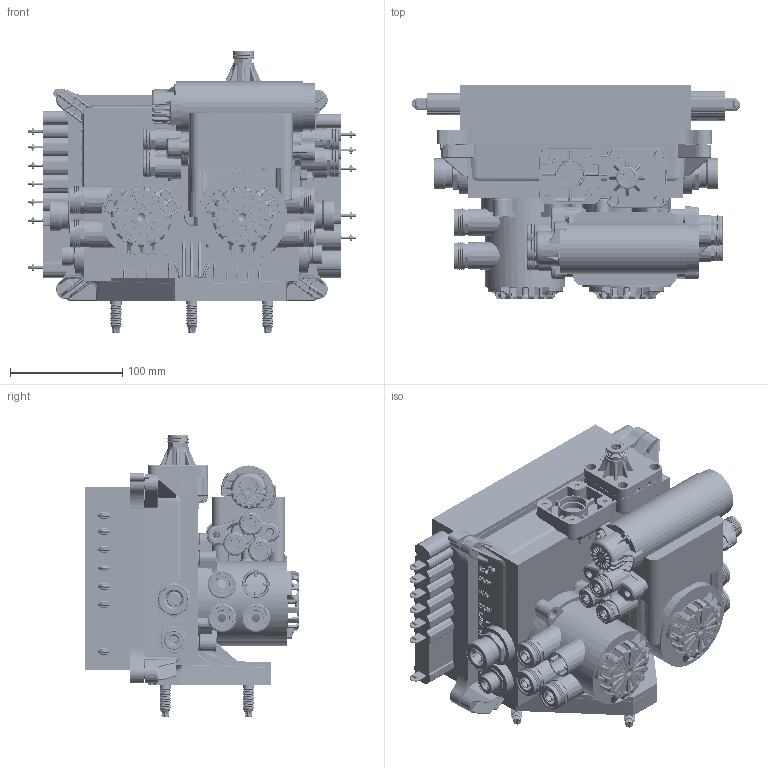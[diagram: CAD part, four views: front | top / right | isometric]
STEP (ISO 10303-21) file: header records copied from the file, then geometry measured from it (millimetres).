
FILE_DESCRIPTION((''),'2;1');
FILE_NAME('842_001_001_ASM_ASM','2022-05-23T10:14:38',('sripaskaraa'),('Haldex Brake Products'),'CREO PARAMETRIC BY PTC INC, 2018500','CREO PARAMETRIC BY PTC INC, 2018500','');
FILE_SCHEMA(('AUTOMOTIVE_DESIGN { 1 0 10303 214 1 1 1 1 }'));
Products named in the file (50): 027_5667_09_1; 003_9972_09_ASM_1_ASM; 051_5150_09_1_1; 032_5119_09_1_1; 032_5113_09_1_1; 003_9960_09_1; 003_9960_09_ASM_1_ASM; 004_0013_09_ASM_1_ASM; 027_5537_09_AF0_1; 003_9864_09_AF0_ASM_1_ASM; 032_5151_09_1_1; 003_9980_09_AF0_ASM_1_ASM; 027_5556_09_AF0_1; 003_9836_09_AF0_ASM_1_ASM; 003_9861_09_AF0_ASM_1_ASM; 027_5560_09_1_1; 003_9841_09_ASM_1_1_ASM; 032_5151_09_1; 032_5150_09_1_1_2_1; 032_5150_09_1_1_2_2; 032_5150_09_1_1_2_ASM; 003_9983_09_ASM_1_1_ASM; 027_5556_09_1_1; 003_9836_09_ASM_1_1_ASM; 003_9863_09_ASM_1_1_ASM; 027_5545_19_1; 003_9853_19_ASM_1_ASM; 027_5551_19_1; 003_9913_19_ASM_1_ASM; 027_5553_19_1; 003_9857_19_ASM_1_ASM; 032_5150_09_1_1; 032_5150_09_1_2; 032_5150_09_1_ASM; 003_9856_19_AF0_ASM_1_ASM; 003_9856_19_AF1_ASM_1_ASM; 027_5555_09_1; 003_9912_09_ASM_1_ASM; 003_9852_09_AF6_ASM_1_ASM; 027_5610_09_1_1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
Assembly tree (73 placements, depth 6):
  842_001_001_ASM_ASM
    842_001_001_ASM_1_ASM
      004_0013_09_ASM_1_ASM
        003_9972_09_ASM_1_ASM
          027_5667_09_1
        051_5150_09_1_1  x3
        032_5119_09_1_1  x2
        032_5113_09_1_1  x2
        003_9960_09_ASM_1_ASM
          003_9960_09_1
      003_9861_09_AF0_ASM_1_ASM
        003_9980_09_AF0_ASM_1_ASM
          003_9864_09_AF0_ASM_1_ASM
            027_5537_09_AF0_1
          032_5151_09_1_1  x3
        003_9836_09_AF0_ASM_1_ASM
          027_5556_09_AF0_1
      003_9863_09_ASM_1_1_ASM
        003_9983_09_ASM_1_1_ASM
          003_9841_09_ASM_1_1_ASM
            027_5560_09_1_1
          032_5151_09_1  x3
          032_5150_09_1_1_2_ASM
            032_5150_09_1_1_2_1
            032_5150_09_1_1_2_2
        003_9836_09_ASM_1_1_ASM
          027_5556_09_1_1
      003_9852_09_AF6_ASM_1_ASM
        003_9913_19_ASM_1_ASM
          003_9853_19_ASM_1_ASM
            027_5545_19_1
          027_5551_19_1
        003_9856_19_AF0_ASM_1_ASM
          003_9857_19_ASM_1_ASM
            027_5553_19_1
          032_5150_09_1_ASM  x3
            032_5150_09_1_1
            032_5150_09_1_2
        003_9856_19_AF1_ASM_1_ASM
          003_9857_19_ASM_1_ASM
            027_5553_19_1
          032_5150_09_1_ASM  x3
            032_5150_09_1_1
            032_5150_09_1_2
        003_9912_09_ASM_1_ASM
          027_5555_09_1
      003_9917_09_ASM_1_1_ASM
        003_9989_09_ASM_1_1_ASM
          027_5610_09_1_1
        032_5150_09_1_ASM
          032_5150_09_1_1
          032_5150_09_1_2
      003_9898_09_ASM_1_1_ASM
        2330527_1_1
      003_9899_09_ASM_1_1_ASM  x9
        2330529_1_1
      003_9900_09_ASM_1_1_ASM  x2
        2330530_1_1
Bounding box: 292.54 x 189.98 x 250.5 mm (x, y, z)
Volume: 5423527.2 mm3; surface area: 700121 mm2
Topology: 53 solids, 105 shells, 41829 faces, 114709 edges, 73723 vertices
Faces by surface type: plane 26340, cylinder 6485, torus 3271, bspline 3097, cone 1899, sphere 578, extrusion 158, revolution 1
Entity records: 914176 total; most frequent: CARTESIAN_POINT 301669, ORIENTED_EDGE 102226, DIRECTION 87976, EDGE_CURVE 51113, PRESENTATION_STYLE_ASSIGNMENT 38052, STYLED_ITEM 37667, VERTEX_POINT 32671, CURVE_STYLE 30625
